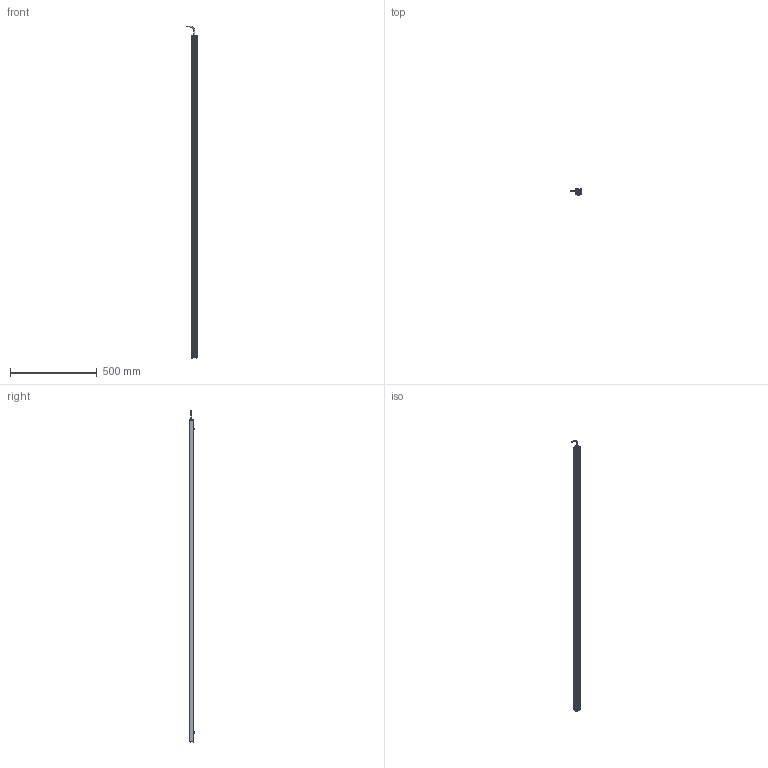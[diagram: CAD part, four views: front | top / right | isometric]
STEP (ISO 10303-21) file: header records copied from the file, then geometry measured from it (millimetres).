
FILE_DESCRIPTION (( 'STEP AP214' ), '1' );
FILE_NAME ('AL150XXXX_AL150426.stp', '2021-04-29T15:42:02', ( '' ), ( '' ), 'SwSTEP 2.0', 'SolidWorks 2018', '' );
FILE_SCHEMA (( 'AUTOMOTIVE_DESIGN' ));
Length unit declared in the file: inch
Products named in the file (12): Part2^AL150XXXX; Part1^AL150XXXX; 093145_93701A253; 1157 (no strap); 116-02-006; 150-01-005-XXX_150-01-005-426; 150-03-006-XXXX_150-03-006-426; CHM6x8_91460A312; 092408_TRUNCATED; AL150XXXX_AL150426; 116-02-007; HN-M6_90592A016
Assembly tree (18 placements, depth 2):
  Part2^AL150XXXX
  Part1^AL150XXXX
  AL150XXXX_AL150426
    150-01-005-XXX_150-01-005-426
    116-02-006
    093145_93701A253  x8
    HN-M6_90592A016  x2
    CHM6x8_91460A312  x2
    150-03-006-XXXX_150-03-006-426
    116-02-007
    1157 (no strap)
    092408_TRUNCATED
Bounding box: 60.68 x 33.84 x 1915.46 mm (x, y, z)
Volume: 575160.2 mm3; surface area: 606908.9 mm2
Topology: 26 solids, 26 shells, 1306 faces, 3436 edges, 2127 vertices
Faces by surface type: cylinder 805, cone 249, plane 153, torus 59, bspline 32, sphere 8
Entity records: 18285 total; most frequent: CARTESIAN_POINT 6069, ORIENTED_EDGE 2496, DIRECTION 2311, EDGE_CURVE 1248, AXIS2_PLACEMENT_3D 881, VERTEX_POINT 800, LINE 549, VECTOR 549
